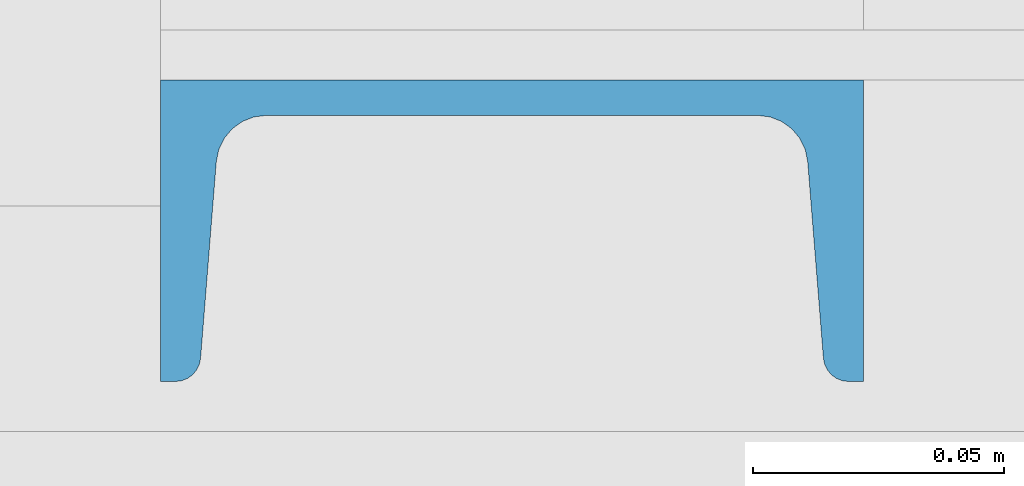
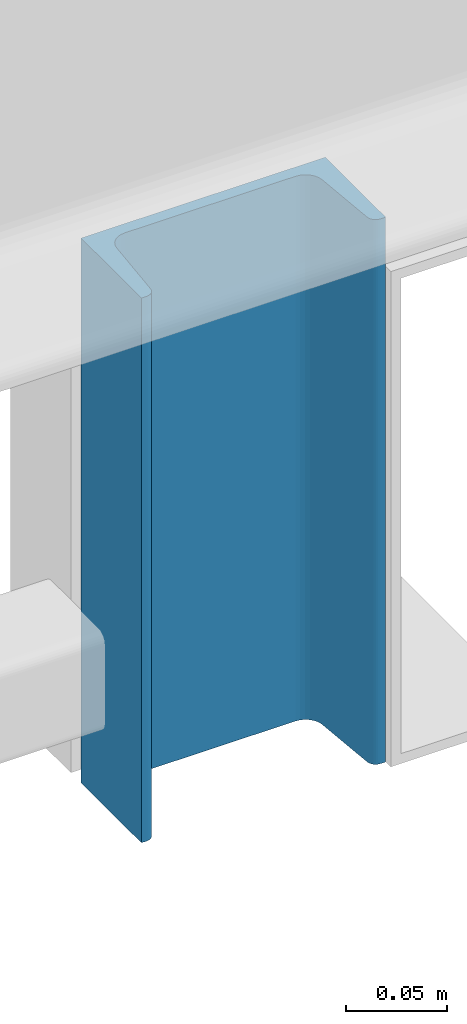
# One storey, part 20 of 123: 1 column, 1 element without a shape of its own.
"""IFC2X3 building model written with IfcOpenShell, lengths in millimetres."""

from ifc_helpers import new_model, si_unit, frame, origin_with_axes, origin_2d_with_axis, place, context, subcontext, project, spatial, u_section, extrude, material, type_object, element, aggregate, save


model = new_model("IFC2X3")

# Units and contexts
model_context = context("Model", 3, precision=1e-05, world=origin_with_axes())
body_context = subcontext(model_context, "Body", "Model", "MODEL_VIEW")
ifc_project = project(units=[si_unit("LENGTHUNIT", "METRE", prefix="MILLI"), si_unit("AREAUNIT", "SQUARE_METRE"), si_unit("VOLUMEUNIT", "CUBIC_METRE"), si_unit("MASSUNIT", "GRAM", prefix="KILO"), si_unit("TIMEUNIT", "SECOND"), si_unit("PLANEANGLEUNIT", "RADIAN"), si_unit("SOLIDANGLEUNIT", "STERADIAN"), si_unit("THERMODYNAMICTEMPERATUREUNIT", "DEGREE_CELSIUS"), si_unit("LUMINOUSINTENSITYUNIT", "LUMEN")], contexts=[model_context])

# Site, building, storey
site_placement = place(None, origin_with_axes())
site = spatial("IfcSite", under=ifc_project, at=site_placement, Name="Undefined", CompositionType="ELEMENT")
building_placement = place(site_placement, origin_with_axes())
building = spatial("IfcBuilding", under=site, at=building_placement, Name="Undefined", CompositionType="ELEMENT")
storey_placement = place(building_placement, origin_with_axes())
storey = spatial("IfcBuildingStorey", under=building, at=storey_placement, Name="Undefined", CompositionType="ELEMENT", Elevation=0.0)

# Assembly, column
assembly_placement = place(storey_placement, origin_with_axes())
assembly = element("IfcElementAssembly", 1, at=assembly_placement, inside=storey, Name="Steel Assembly", AssemblyPlace="NOTDEFINED", PredefinedType="RIGID_FRAME")
ifc_material = material(Name="STEEL/S275-E28")
column_type = type_object("IfcColumnType", Name="UPN140", PredefinedType="NOTDEFINED")
column_placement = place(assembly_placement, frame((24666.4916006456, -35.0, 7940.0), z_axis=(0.0, 0.0, 1.0), x_axis=(-1.0, 0.0, 0.0)))
column = element("IfcColumn", 2, at=column_placement, type_object=column_type, material=ifc_material, Name="MONTANT", ObjectType="UPN140", context=body_context, shape_type="SweptSolid", body=[
    extrude(u_section(Depth=140.0, FlangeWidth=60.0, WebThickness=7.0, FlangeThickness=10.0, FilletRadius=10.0, EdgeRadius=5.0, FlangeSlope=0.0798299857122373, at=origin_2d_with_axis()), frame((0.0, 0.0, 329.994446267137), z_axis=(0.0, 0.0, -1.0), x_axis=(0.0, 1.0, 0.0)), (0.0, 0.0, 1.0), 330.0),
])
aggregate(assembly, [column])

save(model, "model.ifc")
